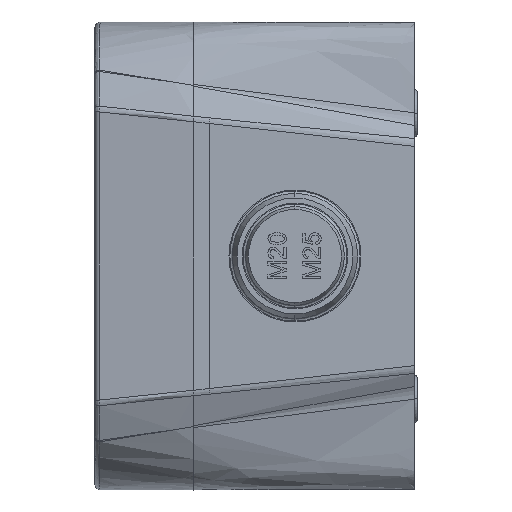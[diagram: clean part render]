
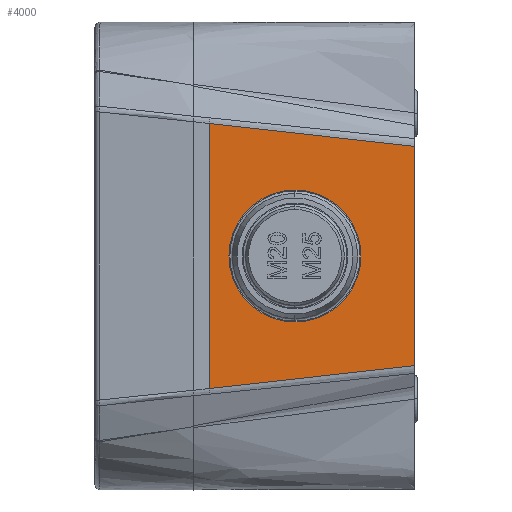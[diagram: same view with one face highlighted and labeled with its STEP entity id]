
A CAD part, left-side view. The second image highlights one B-rep face of the part: STEP entity #4000.
In plain terms, the highlighted planar face has unit normal (-1, 0, 0).
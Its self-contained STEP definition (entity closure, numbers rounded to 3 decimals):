
#291 = FACE_OUTER_BOUND ( 'NONE', #13863, .T. ) ;
#299 = CARTESIAN_POINT ( 'NONE',  ( -140., 0., 332.177 ) ) ;
#306 = FACE_BOUND ( 'NONE', #13859, .T. ) ;
#307 = PLANE ( 'NONE',  #7087 ) ;
#309 = DIRECTION ( 'NONE',  ( 1., 0., 0. ) ) ;
#310 = DIRECTION ( 'NONE',  ( 0., -1., 0. ) ) ;
#2102 = VERTEX_POINT ( 'NONE', #19992 ) ;
#2103 = VERTEX_POINT ( 'NONE', #19993 ) ;
#3071 = CARTESIAN_POINT ( 'NONE',  ( -140., 50.5, 0. ) ) ;
#3072 = DIRECTION ( 'NONE',  ( 1., 0., 0. ) ) ;
#3073 = DIRECTION ( 'NONE',  ( 0., 1., 0. ) ) ;
#3077 = CARTESIAN_POINT ( 'NONE',  ( -140., 39.077, 22.426 ) ) ;
#3078 = CARTESIAN_POINT ( 'NONE',  ( -140., 27.5, 21.106 ) ) ;
#3080 = CARTESIAN_POINT ( 'NONE',  ( -140., 52.244, 23.895 ) ) ;
#3081 = CARTESIAN_POINT ( 'NONE',  ( -140., 67., 25.514 ) ) ;
#3088 = LINE ( 'NONE', #3089, #25124 ) ;
#3089 = CARTESIAN_POINT ( 'NONE',  ( -140., 67., 332.177 ) ) ;
#3090 = DIRECTION ( 'NONE',  ( 0., 0., -1. ) ) ;
#3095 = CARTESIAN_POINT ( 'NONE',  ( -140., 52.244, -23.895 ) ) ;
#3096 = CARTESIAN_POINT ( 'NONE',  ( -140., 67., -25.514 ) ) ;
#3097 = CARTESIAN_POINT ( 'NONE',  ( -140., 39.077, -22.426 ) ) ;
#3098 = CARTESIAN_POINT ( 'NONE',  ( -140., 27.5, -21.106 ) ) ;
#3753 = CIRCLE ( 'NONE', #3755, 12.7 ) ;
#3755 = AXIS2_PLACEMENT_3D ( 'NONE', #25570, #25571, #25572 ) ;
#4000 = ADVANCED_FACE ( 'NONE', ( #306, #291 ), #307, .F. ) ;
#7087 = AXIS2_PLACEMENT_3D ( 'NONE', #299, #309, #310 ) ;
#7200 = B_SPLINE_CURVE_WITH_KNOTS ( 'NONE', 3,
 ( #3078, #3077, #3080, #3081 ),
 .UNSPECIFIED., .F., .F.,
 ( 4, 4 ),
 ( 0., 1. ),
 .UNSPECIFIED. ) ;
#7201 = B_SPLINE_CURVE_WITH_KNOTS ( 'NONE', 3,
 ( #3096, #3095, #3097, #3098 ),
 .UNSPECIFIED., .F., .F.,
 ( 4, 4 ),
 ( 0., 1. ),
 .UNSPECIFIED. ) ;
#10135 = VECTOR ( 'NONE', #28557, 1000. ) ;
#11338 = EDGE_CURVE ( 'NONE', #24456, #24455, #25129, .T. ) ;
#11340 = EDGE_CURVE ( 'NONE', #24759, #2103, #7200, .T. ) ;
#11342 = EDGE_CURVE ( 'NONE', #2103, #2102, #3088, .T. ) ;
#11344 = EDGE_CURVE ( 'NONE', #2102, #24870, #7201, .T. ) ;
#13859 = EDGE_LOOP ( 'NONE', ( #21622, #21624 ) ) ;
#13863 = EDGE_LOOP ( 'NONE', ( #21626, #21628, #21629, #21631 ) ) ;
#15931 = EDGE_CURVE ( 'NONE', #24455, #24456, #3753, .T. ) ;
#19992 = CARTESIAN_POINT ( 'NONE',  ( -140., 67., -25.514 ) ) ;
#19993 = CARTESIAN_POINT ( 'NONE',  ( -140., 67., 25.514 ) ) ;
#21622 = ORIENTED_EDGE ( 'NONE', *, *, #11338, .T. ) ;
#21624 = ORIENTED_EDGE ( 'NONE', *, *, #15931, .T. ) ;
#21626 = ORIENTED_EDGE ( 'NONE', *, *, #32344, .T. ) ;
#21628 = ORIENTED_EDGE ( 'NONE', *, *, #11340, .T. ) ;
#21629 = ORIENTED_EDGE ( 'NONE', *, *, #11342, .T. ) ;
#21631 = ORIENTED_EDGE ( 'NONE', *, *, #11344, .T. ) ;
#23062 = CARTESIAN_POINT ( 'NONE',  ( -140., 50.5, 12.7 ) ) ;
#23063 = CARTESIAN_POINT ( 'NONE',  ( -140., 50.5, -12.7 ) ) ;
#23584 = CARTESIAN_POINT ( 'NONE',  ( -140., 27.5, 21.106 ) ) ;
#23778 = CARTESIAN_POINT ( 'NONE',  ( -140., 27.5, -21.106 ) ) ;
#24455 = VERTEX_POINT ( 'NONE', #23062 ) ;
#24456 = VERTEX_POINT ( 'NONE', #23063 ) ;
#24759 = VERTEX_POINT ( 'NONE', #23584 ) ;
#24870 = VERTEX_POINT ( 'NONE', #23778 ) ;
#25123 = AXIS2_PLACEMENT_3D ( 'NONE', #3071, #3072, #3073 ) ;
#25124 = VECTOR ( 'NONE', #3090, 1000. ) ;
#25129 = CIRCLE ( 'NONE', #25123, 12.7 ) ;
#25570 = CARTESIAN_POINT ( 'NONE',  ( -140., 50.5, 0. ) ) ;
#25571 = DIRECTION ( 'NONE',  ( 1., 0., 0. ) ) ;
#25572 = DIRECTION ( 'NONE',  ( 0., 1., 0. ) ) ;
#28555 = LINE ( 'NONE', #28556, #10135 ) ;
#28556 = CARTESIAN_POINT ( 'NONE',  ( -140., 27.5, 332.177 ) ) ;
#28557 = DIRECTION ( 'NONE',  ( 0., 0., 1. ) ) ;
#32344 = EDGE_CURVE ( 'NONE', #24870, #24759, #28555, .T. ) ;
